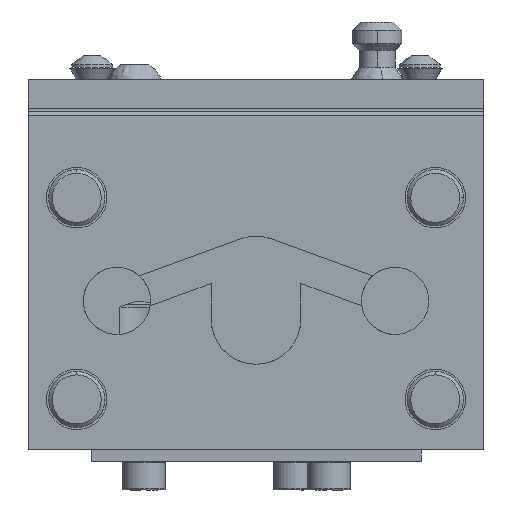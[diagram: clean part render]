
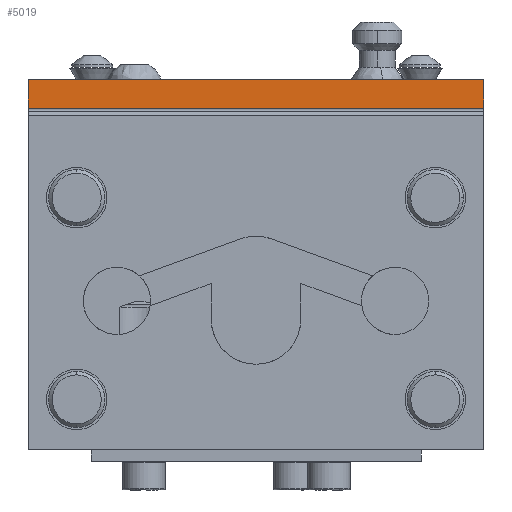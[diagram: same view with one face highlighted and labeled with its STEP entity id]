
A CAD part, front view. The second image highlights one B-rep face of the part: STEP entity #5019.
In plain terms, the highlighted planar face has unit normal (0, -1, 0).
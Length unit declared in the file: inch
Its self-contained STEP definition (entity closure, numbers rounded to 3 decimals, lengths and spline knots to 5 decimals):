
#818 = FACE_OUTER_BOUND ( 'NONE', #1239, .T. ) ;
#924 = LINE ( 'NONE', #8799, #7989 ) ;
#1239 = EDGE_LOOP ( 'NONE', ( #7851, #14563, #9402, #5411 ) ) ;
#1603 = CARTESIAN_POINT ( 'NONE',  ( -2.80647, -1.84425, -2.55659 ) ) ;
#2610 = VECTOR ( 'NONE', #19139, 39.37008 ) ;
#4439 = LINE ( 'NONE', #1603, #9296 ) ;
#4450 = AXIS2_PLACEMENT_3D ( 'NONE', #6985, #17691, #11727 ) ;
#4972 = EDGE_CURVE ( 'NONE', #14663, #18238, #924, .T. ) ;
#5019 = ADVANCED_FACE ( 'NONE', ( #818 ), #19414, .T. ) ;
#5302 = CARTESIAN_POINT ( 'NONE',  ( 1.19353, -1.84425, -2.55659 ) ) ;
#5411 = ORIENTED_EDGE ( 'NONE', *, *, #19025, .T. ) ;
#5504 = DIRECTION ( 'NONE',  ( 0., 0., 1. ) ) ;
#6535 = CARTESIAN_POINT ( 'NONE',  ( -2.80647, -1.84425, 0.69341 ) ) ;
#6985 = CARTESIAN_POINT ( 'NONE',  ( -2.80647, -1.84425, 0.44341 ) ) ;
#7851 = ORIENTED_EDGE ( 'NONE', *, *, #11560, .T. ) ;
#7989 = VECTOR ( 'NONE', #11530, 39.37008 ) ;
#8799 = CARTESIAN_POINT ( 'NONE',  ( -2.80647, -1.84425, 0.69341 ) ) ;
#9296 = VECTOR ( 'NONE', #10604, 39.37008 ) ;
#9402 = ORIENTED_EDGE ( 'NONE', *, *, #4972, .T. ) ;
#10604 = DIRECTION ( 'NONE',  ( 0., 0., -1. ) ) ;
#11530 = DIRECTION ( 'NONE',  ( -1., 0., 0. ) ) ;
#11560 = EDGE_CURVE ( 'NONE', #15107, #12402, #11563, .T. ) ;
#11563 = LINE ( 'NONE', #14390, #2610 ) ;
#11566 = CARTESIAN_POINT ( 'NONE',  ( 1.19353, -1.84425, 0.44341 ) ) ;
#11727 = DIRECTION ( 'NONE',  ( 0., 0., -1. ) ) ;
#12373 = EDGE_CURVE ( 'NONE', #12402, #14663, #12876, .T. ) ;
#12402 = VERTEX_POINT ( 'NONE', #11566 ) ;
#12876 = LINE ( 'NONE', #5302, #16285 ) ;
#13054 = CARTESIAN_POINT ( 'NONE',  ( -2.80647, -1.84425, 0.44341 ) ) ;
#14390 = CARTESIAN_POINT ( 'NONE',  ( -2.80647, -1.84425, 0.44341 ) ) ;
#14563 = ORIENTED_EDGE ( 'NONE', *, *, #12373, .T. ) ;
#14663 = VERTEX_POINT ( 'NONE', #15796 ) ;
#15107 = VERTEX_POINT ( 'NONE', #13054 ) ;
#15796 = CARTESIAN_POINT ( 'NONE',  ( 1.19353, -1.84425, 0.69341 ) ) ;
#16285 = VECTOR ( 'NONE', #5504, 39.37008 ) ;
#17691 = DIRECTION ( 'NONE',  ( 0., -1., 0. ) ) ;
#18238 = VERTEX_POINT ( 'NONE', #6535 ) ;
#19025 = EDGE_CURVE ( 'NONE', #18238, #15107, #4439, .T. ) ;
#19139 = DIRECTION ( 'NONE',  ( 1., 0., 0. ) ) ;
#19414 = PLANE ( 'NONE',  #4450 ) ;
